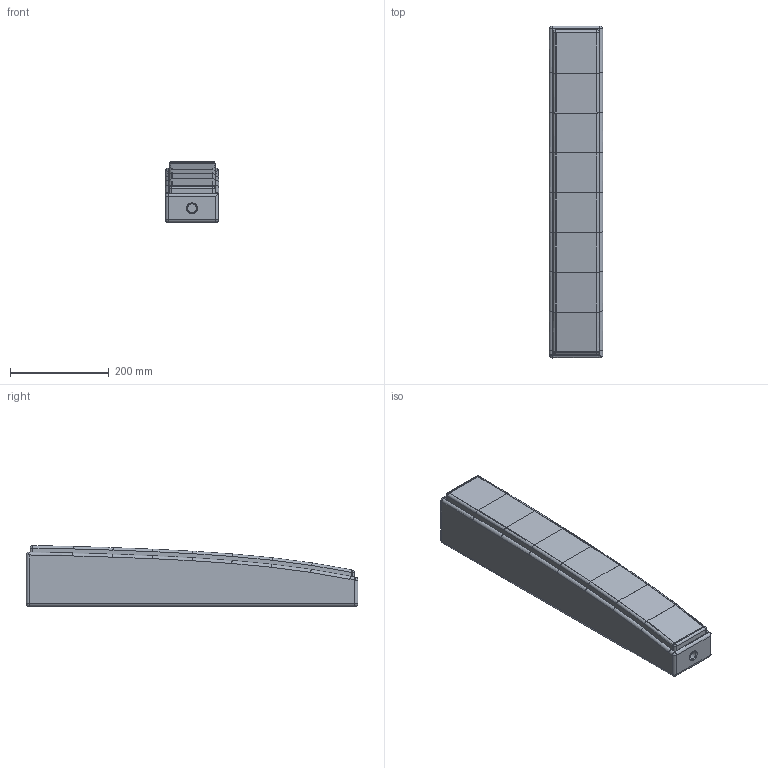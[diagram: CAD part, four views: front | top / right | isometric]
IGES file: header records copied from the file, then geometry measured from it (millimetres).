
Start section: SolidWorks IGES file using analytic representation for surfaces
Global section: file name: C:\Dokumente und Einstellungen\PC_Fabian\Desktop\SW-Konstruktionen Michl2010\L-Serie\L8j\Internet\SEEBURG_L8j.IGS; native system: SolidWorks 2009; preprocessor: SolidWorks 2009; author: PC_Fabian; date: 120926.112643; units: millimetre
Bounding box: 108 x 670.73 x 123.01 mm (x, y, z)
Surface area: 670818.5 mm2 (no closed solid volume)
Topology: 0 solids, 0 shells, 218 faces, 1895 edges, 1891 vertices
Faces by surface type: bspline 116, revolution 102
